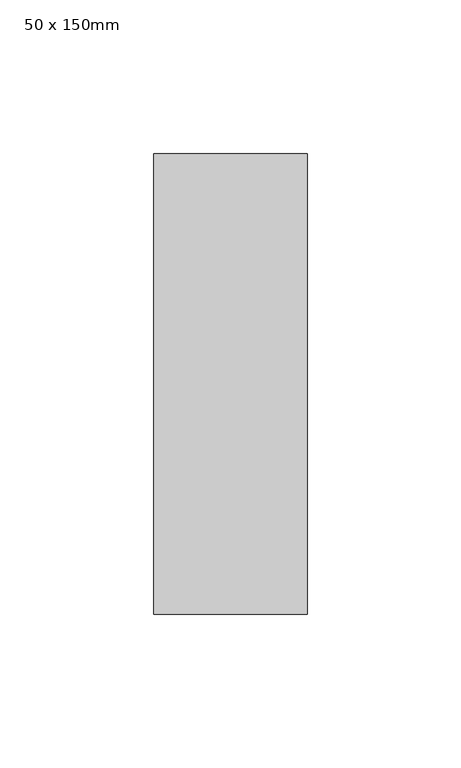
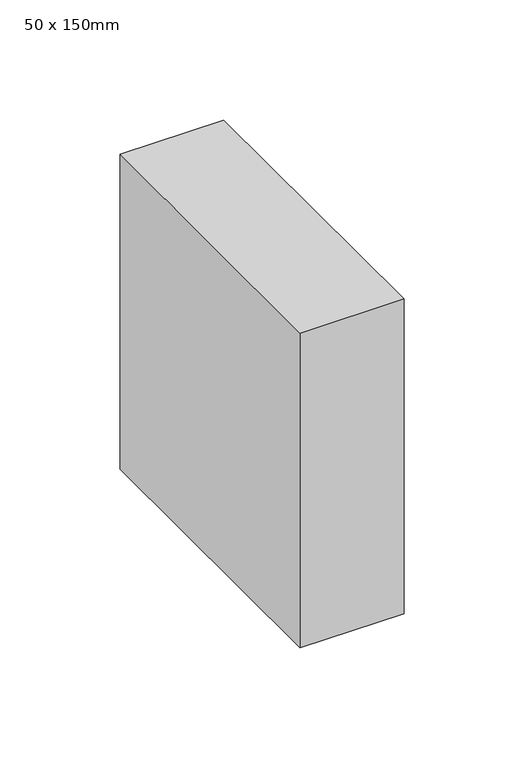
"""IFC4 building model written with IfcOpenShell, lengths in millimetres: member geometry, Прямоугольный импост : 50 x 150mm."""

from ifc_helpers import new_model, si_unit, frame, origin, place, context, project, spatial, polyline, outline, extrude, source, transform, mapped, element, save


def member_50_x_150mm_116710e9(model_context):
    return source(origin(), model_context, "Body", "SweptSolid", [
        extrude(outline(polyline([(0.0, 75.0), (0.0, -75.0), (-50.0, -75.0), (-50.0, 75.0), (0.0, 75.0)])), frame((0.0, 0.0, -160.0), z_axis=(0.0, 0.0, 1.0), x_axis=(1.0, 0.0, 0.0)), (0.0, 0.0, 1.0), 160.0),
    ])


if __name__ == "__main__":
    model = new_model("IFC4")
    model_context = context("Model", 3, world=origin())
    ifc_project = project(units=[si_unit("LENGTHUNIT", "METRE", prefix="MILLI")], contexts=[model_context])
    site = spatial("IfcSite", under=ifc_project)
    building = spatial("IfcBuilding", under=site)
    placement = place(None, origin())
    member_50_x_150mm_shape = member_50_x_150mm_116710e9(model_context)
    element("IfcMember", 1, ObjectType="Прямоугольный импост : 50 x 150mm", at=placement, inside=building, context=model_context, shape_type="MappedRepresentation", body=[
        mapped(member_50_x_150mm_shape, transform((0.0, 0.0, 0.0), x_axis=(1.0, 0.0, 0.0), y_axis=(0.0, 1.0, 0.0), z_axis=(0.0, 0.0, 1.0))),
    ])
    save(model, "model.ifc")
